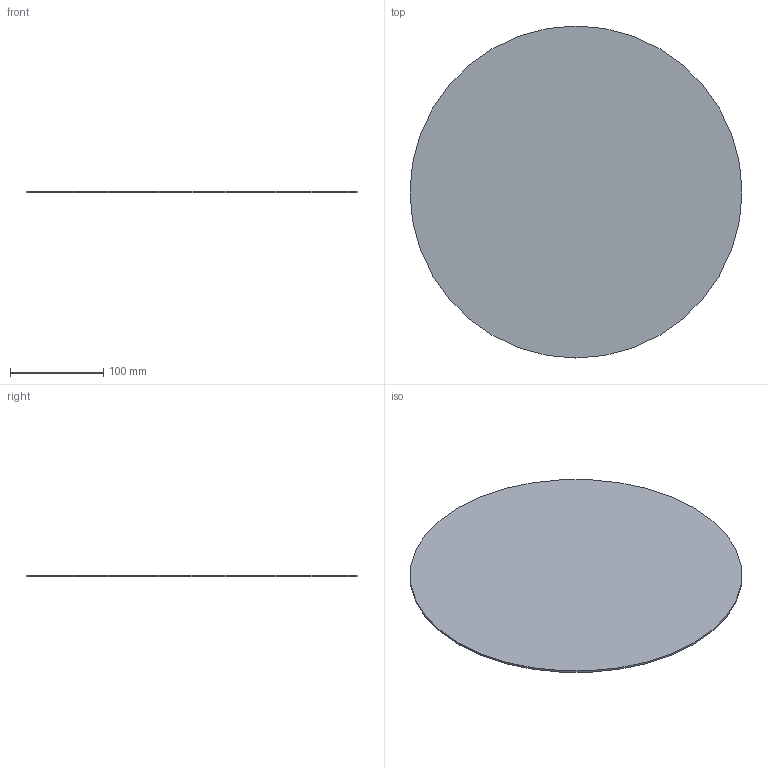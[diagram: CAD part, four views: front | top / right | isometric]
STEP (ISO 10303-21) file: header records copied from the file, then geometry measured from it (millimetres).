
FILE_DESCRIPTION (( 'STEP AP203' ), '1' );
FILE_NAME ('Fond.STEP', '2019-02-25T14:21:16', ( '' ), ( '' ), 'SwSTEP 2.0', 'SolidWorks 2019', '' );
FILE_SCHEMA (( 'CONFIG_CONTROL_DESIGN' ));
Length unit declared in the file: millimetre
Products named in the file (1): Fond
Bounding box: 356 x 356 x 2 mm (x, y, z)
Volume: 199076.4 mm3; surface area: 201313.3 mm2
Topology: 1 solids, 1 shells, 4 faces, 6 edges, 4 vertices
Faces by surface type: cylinder 2, plane 2
Entity records: 171 total; most frequent: DIRECTION 20, CARTESIAN_POINT 15, ORIENTED_EDGE 12, AXIS2_PLACEMENT_3D 9, PERSON_AND_ORGANIZATION 8, EDGE_CURVE 6, DATE_AND_TIME 5, PERSON_AND_ORGANIZATION_ROLE 5
